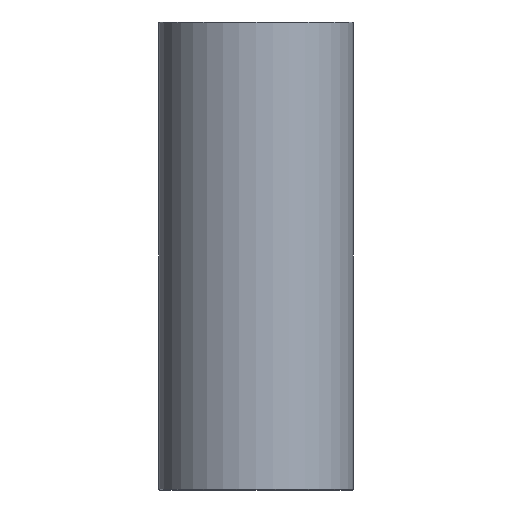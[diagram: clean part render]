
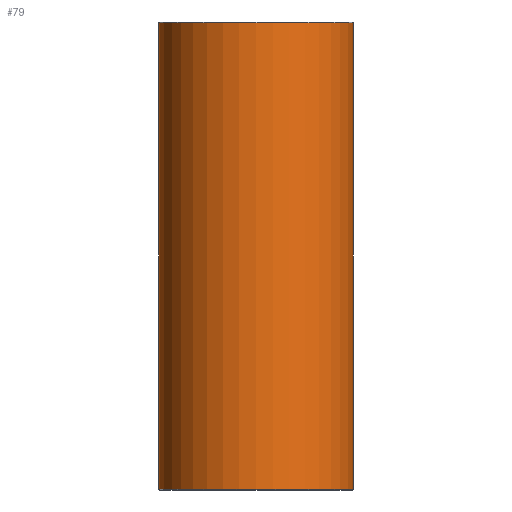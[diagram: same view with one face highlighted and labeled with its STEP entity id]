
A CAD part, front view. The second image highlights one B-rep face of the part: STEP entity #79.
In plain terms, the highlighted cylindrical face has radius 37.5 mm (diameter 75 mm), a full revolution.
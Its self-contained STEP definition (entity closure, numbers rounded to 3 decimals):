
#79=ADVANCED_FACE('',(#96,#97),#98,.T.);
#96=FACE_OUTER_BOUND('',#120,.T.);
#97=FACE_OUTER_BOUND('',#121,.T.);
#98=CYLINDRICAL_SURFACE('',#122,37.5);
#120=EDGE_LOOP('',(#152));
#121=EDGE_LOOP('',(#153));
#122=AXIS2_PLACEMENT_3D('',#154,#155,#156);
#152=ORIENTED_EDGE('',*,*,#178,.T.);
#153=ORIENTED_EDGE('',*,*,#177,.T.);
#154=CARTESIAN_POINT('',(0.,0.0,180.0));
#155=DIRECTION('',(0.0,0.0,-1.0));
#156=DIRECTION('',(-1.0,0.0,0.0));
#177=EDGE_CURVE('',#190,#190,#191,.T.);
#178=EDGE_CURVE('',#192,#192,#193,.F.);
#190=VERTEX_POINT('',#206);
#191=CIRCLE('',#207,37.5);
#192=VERTEX_POINT('',#208);
#193=CIRCLE('',#209,37.5);
#206=CARTESIAN_POINT('',(37.5,0.0,0.2));
#207=AXIS2_PLACEMENT_3D('',#227,#228,#229);
#208=CARTESIAN_POINT('',(37.5,0.,179.8));
#209=AXIS2_PLACEMENT_3D('',#230,#231,#232);
#227=CARTESIAN_POINT('',(0.,0.0,0.2));
#228=DIRECTION('',(0.0,0.0,1.0));
#229=DIRECTION('',(1.0,0.0,0.0));
#230=CARTESIAN_POINT('',(0.,0.0,179.8));
#231=DIRECTION('',(0.0,0.0,1.0));
#232=DIRECTION('',(1.0,0.0,0.0));
